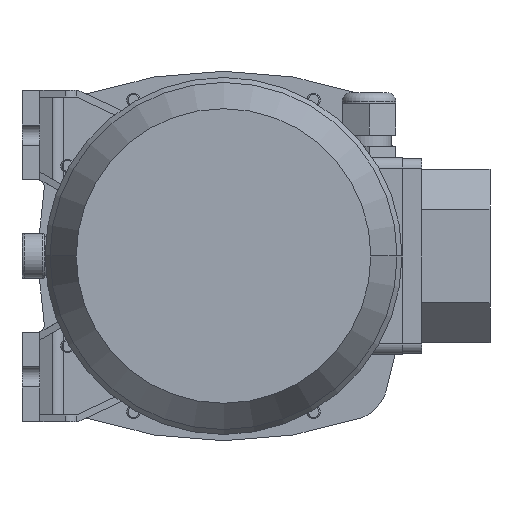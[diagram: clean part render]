
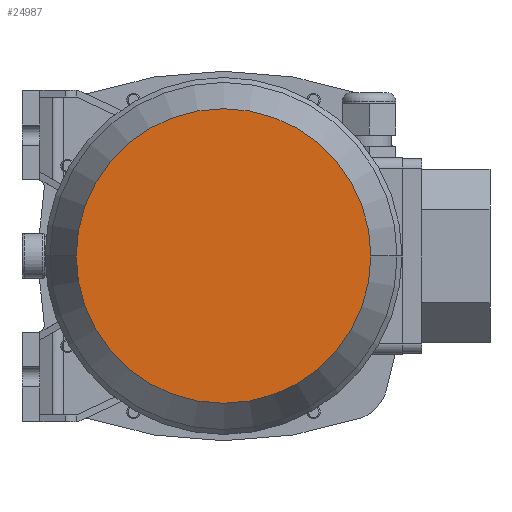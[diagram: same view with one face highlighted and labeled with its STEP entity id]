
A CAD part, front view. The second image highlights one B-rep face of the part: STEP entity #24987.
In plain terms, the highlighted planar face has unit normal (0, -1, 0) as drawn and (1, 0, 0) by its records, which use the part's own axes.
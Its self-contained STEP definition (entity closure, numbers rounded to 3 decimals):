
#18299=CARTESIAN_POINT('',(228.,0.,0.));
#18300=DIRECTION('',(-1.,0.,0.));
#18301=DIRECTION('',(0.,1.,0.));
#18302=AXIS2_PLACEMENT_3D('',#18299,#18300,#18301);
#18307=CARTESIAN_POINT('',(228.,0.,0.));
#18308=DIRECTION('',(1.,0.,0.));
#18309=DIRECTION('',(0.,1.,0.));
#18310=AXIS2_PLACEMENT_3D('',#18307,#18308,#18309);
#20280=CARTESIAN_POINT('',(228.,65.794,0.));
#20282=VERTEX_POINT('',#20280);
#20290=CARTESIAN_POINT('',(228.,-65.794,0.));
#20292=VERTEX_POINT('',#20290);
#24978=CARTESIAN_POINT('',(228.,0.,0.));
#24979=DIRECTION('',(1.,0.,0.));
#24980=DIRECTION('',(0.,-1.,0.));
#24981=AXIS2_PLACEMENT_3D('',#24978,#24979,#24980);
#24982=PLANE('',#24981);
#24983=ORIENTED_EDGE('',*,*,#24960,.T.);
#24984=ORIENTED_EDGE('',*,*,#24971,.F.);
#24985=EDGE_LOOP('',(#24983,#24984));
#24986=FACE_OUTER_BOUND('',#24985,.F.);
#18303=CIRCLE('',#18302,65.794);
#18311=CIRCLE('',#18310,65.794);
#24960=EDGE_CURVE('',#20282,#20292,#18303,.T.);
#24971=EDGE_CURVE('',#20282,#20292,#18311,.T.);
#24987=ADVANCED_FACE('',(#24986),#24982,.T.);
